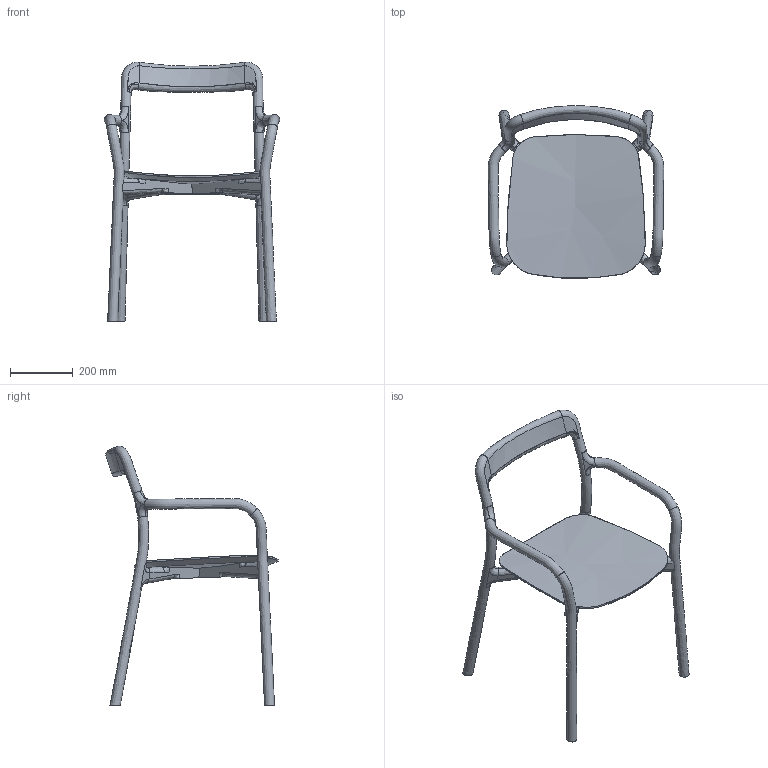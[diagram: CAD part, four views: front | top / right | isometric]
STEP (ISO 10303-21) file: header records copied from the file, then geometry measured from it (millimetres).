
FILE_DESCRIPTION(/* description */ (''),/* implementation_level */ '2;1');
FILE_NAME(/* name */ 'MC02_B~1',/* time_stamp */ '2021-04-08T18:13:09+02:00',/* author */ (''),/* organization */ (''),/* preprocessor_version */ 'ST-DEVELOPER v16.5',/* originating_system */ '',/* authorisation */ '');
FILE_SCHEMA (('AUTOMOTIVE_DESIGN'));
Length unit declared in the file: millimetre
Products named in the file (1): Document
Bounding box: 560.85 x 550.8 x 829.86 mm (x, y, z)
Surface area: 956165.5 mm2 (no closed solid volume)
Topology: 0 solids, 99 shells, 101 faces, 515 edges, 495 vertices
Faces by surface type: bspline 101
Entity records: 29934 total; most frequent: CARTESIAN_POINT 25512, B_SPLINE_CURVE_WITH_KNOTS 707, ORIENTED_EDGE 521, PCURVE 521, DEFINITIONAL_REPRESENTATION 521, SURFACE_CURVE 507, EDGE_CURVE 507, VERTEX_POINT 495
